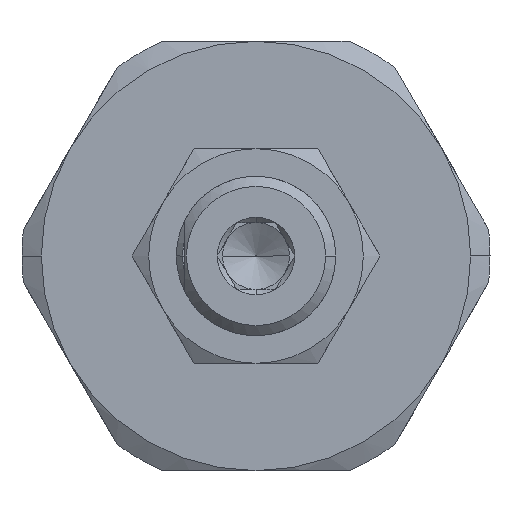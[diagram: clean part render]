
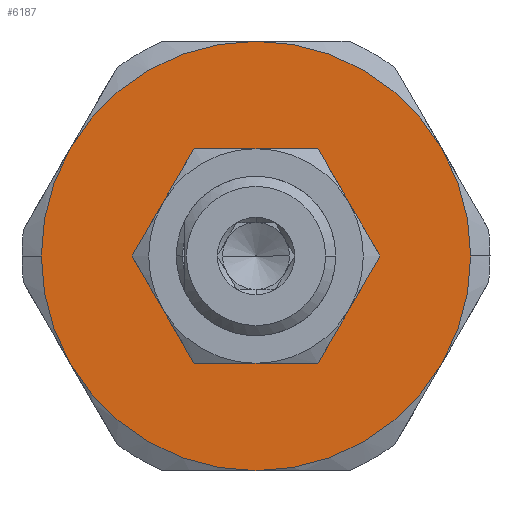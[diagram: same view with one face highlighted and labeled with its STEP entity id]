
A CAD part, left-side view. The second image highlights one B-rep face of the part: STEP entity #6187.
In plain terms, the highlighted planar face has unit normal (-1, 0, 0).
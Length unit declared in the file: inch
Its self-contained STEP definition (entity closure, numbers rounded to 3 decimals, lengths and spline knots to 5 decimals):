
#948=CARTESIAN_POINT('',(-2.0,0.5,0.));
#949=VERTEX_POINT('',#948);
#965=CARTESIAN_POINT('',(-2.0,0.43301,-0.25));
#966=VERTEX_POINT('',#965);
#980=CARTESIAN_POINT('',(-2.0,0.0,0.));
#981=DIRECTION('',(-1.0,0.0,0.0));
#982=DIRECTION('',(0.0,1.0,0.0));
#983=AXIS2_PLACEMENT_3D('',#980,#981,#982);
#984=CIRCLE('',#983,0.5);
#985=EDGE_CURVE('',#949,#966,#984,.T.);
#995=CARTESIAN_POINT('',(-2.0,-0.5,0.));
#996=VERTEX_POINT('',#995);
#1003=CARTESIAN_POINT('',(-2.0,-0.43301,-0.25));
#1004=VERTEX_POINT('',#1003);
#1005=CARTESIAN_POINT('',(-2.0,0.0,0.));
#1006=DIRECTION('',(-1.0,0.0,0.0));
#1007=DIRECTION('',(0.0,1.0,0.0));
#1008=AXIS2_PLACEMENT_3D('',#1005,#1006,#1007);
#1009=CIRCLE('',#1008,0.5);
#1010=EDGE_CURVE('',#1004,#996,#1009,.T.);
#4376=CARTESIAN_POINT('',(-2.0,-0.21651,-0.125));
#4377=VERTEX_POINT('',#4376);
#4391=CARTESIAN_POINT('',(-2.0,0.0,-0.25));
#4392=VERTEX_POINT('',#4391);
#4406=CARTESIAN_POINT('',(-2.0,0.,0.));
#4407=DIRECTION('',(1.0,0.0,0.0));
#4408=DIRECTION('',(0.0,0.0,-1.0));
#4409=AXIS2_PLACEMENT_3D('',#4406,#4407,#4408);
#4410=CIRCLE('',#4409,0.25);
#4411=EDGE_CURVE('',#4377,#4392,#4410,.T.);
#4423=CARTESIAN_POINT('',(-2.0,-0.21651,0.125));
#4424=VERTEX_POINT('',#4423);
#4451=CARTESIAN_POINT('',(-2.0,0.,0.));
#4452=DIRECTION('',(1.0,0.0,0.0));
#4453=DIRECTION('',(0.0,0.0,-1.0));
#4454=AXIS2_PLACEMENT_3D('',#4451,#4452,#4453);
#4455=CIRCLE('',#4454,0.25);
#4456=EDGE_CURVE('',#4424,#4377,#4455,.T.);
#4468=CARTESIAN_POINT('',(-2.0,0.0,0.25));
#4469=VERTEX_POINT('',#4468);
#4496=CARTESIAN_POINT('',(-2.0,0.,0.));
#4497=DIRECTION('',(1.0,0.0,0.0));
#4498=DIRECTION('',(0.0,0.0,-1.0));
#4499=AXIS2_PLACEMENT_3D('',#4496,#4497,#4498);
#4500=CIRCLE('',#4499,0.25);
#4501=EDGE_CURVE('',#4469,#4424,#4500,.T.);
#4526=CARTESIAN_POINT('',(-2.0,0.21651,0.125));
#4527=VERTEX_POINT('',#4526);
#4528=CARTESIAN_POINT('',(-2.0,0.,0.));
#4529=DIRECTION('',(1.0,0.0,0.0));
#4530=DIRECTION('',(0.0,0.0,-1.0));
#4531=AXIS2_PLACEMENT_3D('',#4528,#4529,#4530);
#4532=CIRCLE('',#4531,0.25);
#4533=EDGE_CURVE('',#4527,#4469,#4532,.T.);
#4571=CARTESIAN_POINT('',(-2.0,0.21651,-0.125));
#4572=VERTEX_POINT('',#4571);
#4573=CARTESIAN_POINT('',(-2.0,0.,0.));
#4574=DIRECTION('',(1.0,0.0,0.0));
#4575=DIRECTION('',(0.0,0.0,-1.0));
#4576=AXIS2_PLACEMENT_3D('',#4573,#4574,#4575);
#4577=CIRCLE('',#4576,0.25);
#4578=EDGE_CURVE('',#4572,#4527,#4577,.T.);
#4616=CARTESIAN_POINT('',(-2.0,0.,0.));
#4617=DIRECTION('',(1.0,0.0,0.0));
#4618=DIRECTION('',(0.0,0.0,-1.0));
#4619=AXIS2_PLACEMENT_3D('',#4616,#4617,#4618);
#4620=CIRCLE('',#4619,0.25);
#4621=EDGE_CURVE('',#4392,#4572,#4620,.T.);
#6120=CARTESIAN_POINT('',(-2.0,0.,0.));
#6121=DIRECTION('',(1.0,0.0,0.0));
#6122=DIRECTION('',(0.0,0.0,-1.0));
#6123=AXIS2_PLACEMENT_3D('',#6120,#6121,#6122);
#6124=PLANE('',#6123);
#6125=CARTESIAN_POINT('',(-2.0,-0.43301,0.25));
#6126=VERTEX_POINT('',#6125);
#6127=CARTESIAN_POINT('',(-2.0,0.,0.5));
#6128=VERTEX_POINT('',#6127);
#6129=CARTESIAN_POINT('',(-2.0,0.0,0.));
#6130=DIRECTION('',(-1.0,0.0,0.0));
#6131=DIRECTION('',(0.0,1.0,0.0));
#6132=AXIS2_PLACEMENT_3D('',#6129,#6130,#6131);
#6133=CIRCLE('',#6132,0.5);
#6134=EDGE_CURVE('',#6126,#6128,#6133,.T.);
#6135=ORIENTED_EDGE('',*,*,#6134,.T.);
#6136=CARTESIAN_POINT('',(-2.0,0.43301,0.25));
#6137=VERTEX_POINT('',#6136);
#6138=CARTESIAN_POINT('',(-2.0,0.0,0.));
#6139=DIRECTION('',(-1.0,0.0,0.0));
#6140=DIRECTION('',(0.0,1.0,0.0));
#6141=AXIS2_PLACEMENT_3D('',#6138,#6139,#6140);
#6142=CIRCLE('',#6141,0.5);
#6143=EDGE_CURVE('',#6128,#6137,#6142,.T.);
#6144=ORIENTED_EDGE('',*,*,#6143,.T.);
#6145=CARTESIAN_POINT('',(-2.0,0.0,0.));
#6146=DIRECTION('',(-1.0,0.0,0.0));
#6147=DIRECTION('',(0.0,1.0,0.0));
#6148=AXIS2_PLACEMENT_3D('',#6145,#6146,#6147);
#6149=CIRCLE('',#6148,0.5);
#6150=EDGE_CURVE('',#6137,#949,#6149,.T.);
#6151=ORIENTED_EDGE('',*,*,#6150,.T.);
#6152=ORIENTED_EDGE('',*,*,#985,.T.);
#6153=CARTESIAN_POINT('',(-2.,0.,-0.5));
#6154=VERTEX_POINT('',#6153);
#6155=CARTESIAN_POINT('',(-2.0,0.0,0.));
#6156=DIRECTION('',(-1.0,0.0,0.0));
#6157=DIRECTION('',(0.0,1.0,0.0));
#6158=AXIS2_PLACEMENT_3D('',#6155,#6156,#6157);
#6159=CIRCLE('',#6158,0.5);
#6160=EDGE_CURVE('',#966,#6154,#6159,.T.);
#6161=ORIENTED_EDGE('',*,*,#6160,.T.);
#6162=CARTESIAN_POINT('',(-2.0,0.0,0.));
#6163=DIRECTION('',(-1.0,0.0,0.0));
#6164=DIRECTION('',(0.0,1.0,0.0));
#6165=AXIS2_PLACEMENT_3D('',#6162,#6163,#6164);
#6166=CIRCLE('',#6165,0.5);
#6167=EDGE_CURVE('',#6154,#1004,#6166,.T.);
#6168=ORIENTED_EDGE('',*,*,#6167,.T.);
#6169=ORIENTED_EDGE('',*,*,#1010,.T.);
#6170=CARTESIAN_POINT('',(-2.0,0.0,0.));
#6171=DIRECTION('',(-1.0,0.0,0.0));
#6172=DIRECTION('',(0.0,1.0,0.0));
#6173=AXIS2_PLACEMENT_3D('',#6170,#6171,#6172);
#6174=CIRCLE('',#6173,0.5);
#6175=EDGE_CURVE('',#996,#6126,#6174,.T.);
#6176=ORIENTED_EDGE('',*,*,#6175,.T.);
#6177=EDGE_LOOP('',(#6135,#6144,#6151,#6152,#6161,#6168,#6169,#6176));
#6178=FACE_OUTER_BOUND('',#6177,.T.);
#6179=ORIENTED_EDGE('',*,*,#4411,.T.);
#6180=ORIENTED_EDGE('',*,*,#4621,.T.);
#6181=ORIENTED_EDGE('',*,*,#4578,.T.);
#6182=ORIENTED_EDGE('',*,*,#4533,.T.);
#6183=ORIENTED_EDGE('',*,*,#4501,.T.);
#6184=ORIENTED_EDGE('',*,*,#4456,.T.);
#6185=EDGE_LOOP('',(#6179,#6180,#6181,#6182,#6183,#6184));
#6186=FACE_BOUND('',#6185,.T.);
#6187=ADVANCED_FACE('',(#6178,#6186),#6124,.F.);
